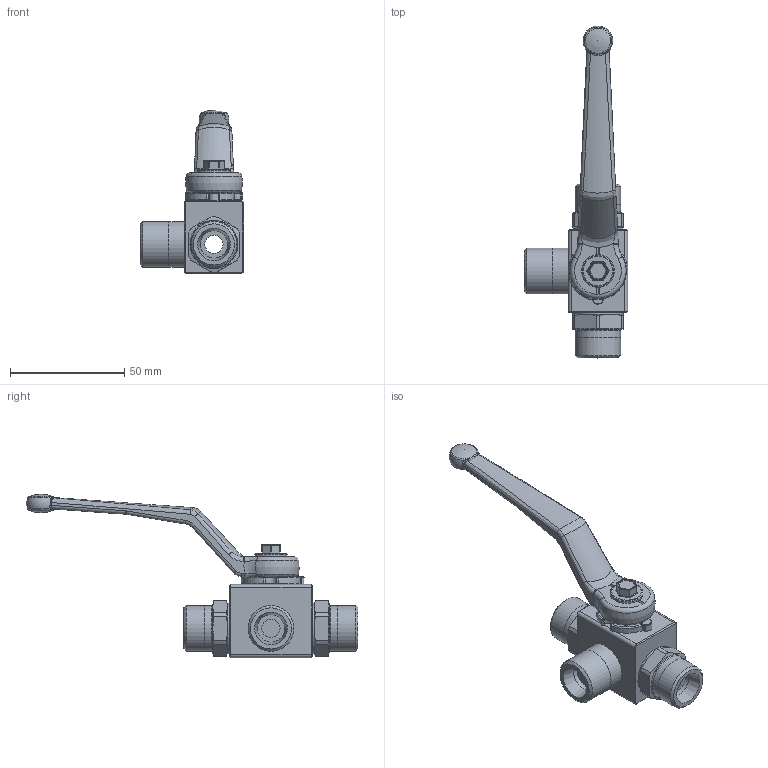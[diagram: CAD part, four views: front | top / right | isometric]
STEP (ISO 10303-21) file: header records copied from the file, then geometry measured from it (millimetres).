
FILE_DESCRIPTION( ( 'Unknown' ), '1' );
FILE_NAME( 'H:/PISTER/3D-MODELLE/BK3 stp/BK3 DN8 12S.stp', 'Unknown', ( 'Unknown' ), ( 'Unknown' ), 'PSStep 14.0', 'Unknown', ' ' );
FILE_SCHEMA( ( 'AUTOMOTIVE_DESIGN { 1 0 10303 214 1 1 1 1 }' ) );
Length unit declared in the file: millimetre
Products named in the file (10): Assem1; 06-008-059-oa7; 09-09-002; 58-28740-07-oa8; Griff_SW9; 58-0933-133; 04-008-044-oa9; 04-008-044-oa10; 01-008-017-oa11; 04-008-038-oa12
Assembly tree (9 placements, depth 2):
  Assem1
    06-008-059-oa7
    09-09-002
    58-28740-07-oa8
    Griff_SW9
    58-0933-133
    04-008-044-oa9
    04-008-044-oa10
    01-008-017-oa11
    04-008-038-oa12
Bounding box: 45.2 x 145 x 71.4 mm (x, y, z)
Volume: 34681 mm3; surface area: 24313.1 mm2
Topology: 9 solids, 9 shells, 390 faces, 960 edges, 578 vertices
Faces by surface type: cylinder 135, plane 125, bspline 42, torus 40, cone 28, sphere 20
Full cylindrical faces by diameter (mm): 4.134 x1, 4.98 x1, 5 x1, 8 x3, 12 x3, 14 x2, 14.3 x1, 20 x7, 21 x2, 22 x2, 22.5 x2
Entity records: 15860 total; most frequent: CARTESIAN_POINT 3962, DIRECTION 1853, ORIENTED_EDGE 1714, EDGE_CURVE 857, AXIS2_PLACEMENT_3D 756, VERTEX_POINT 550, EDGE_LOOP 472, FACE_OUTER_BOUND 427
